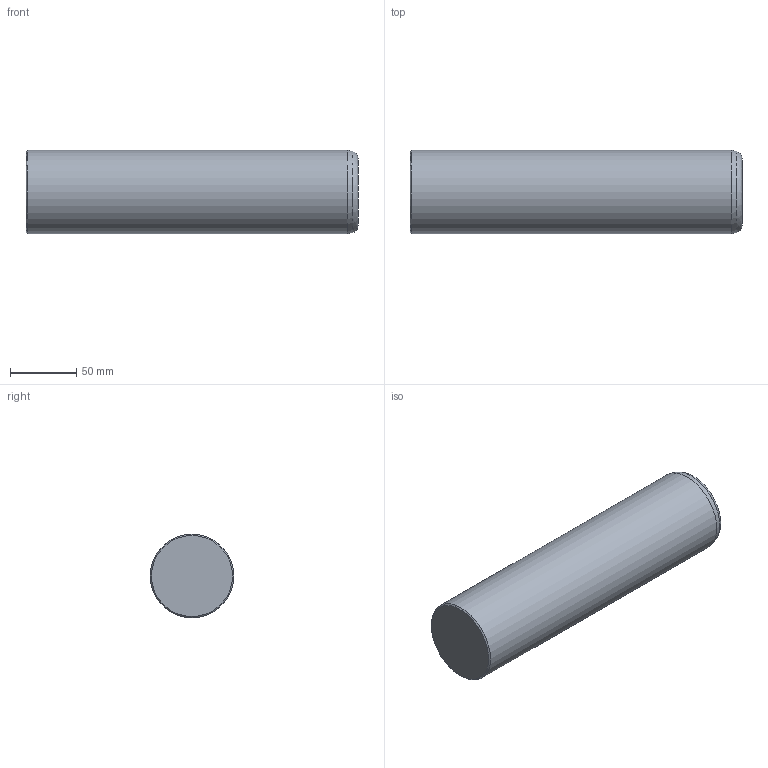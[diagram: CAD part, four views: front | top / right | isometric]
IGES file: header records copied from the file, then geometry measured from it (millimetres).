
Global section: file name: C463250.ipt; native system: Autodesk Inventor 2021; preprocessor: unknown; author: SM; date: 20211220.143450; units: millimetre
Bounding box: 250 x 63 x 63 mm (x, y, z)
Volume: 777129.2 mm3; surface area: 54985.2 mm2
Topology: 1 solids, 1 shells, 6 faces, 11 edges, 7 vertices
Faces by surface type: cone 2, plane 2, revolution 1, cylinder 1
Full cylindrical faces by diameter (mm): 63 x1
